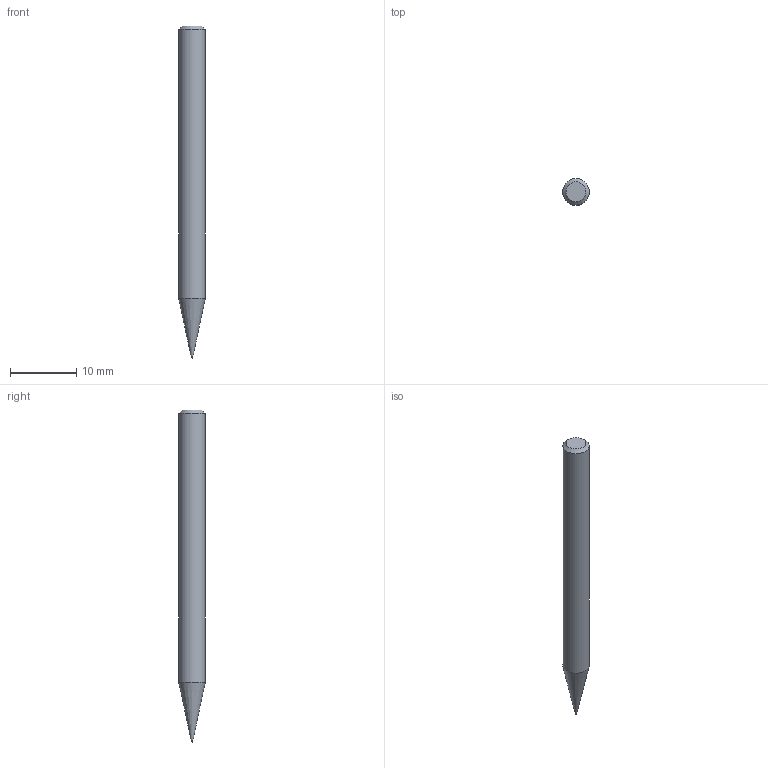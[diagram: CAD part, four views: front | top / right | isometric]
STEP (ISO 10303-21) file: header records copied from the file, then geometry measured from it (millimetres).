
FILE_DESCRIPTION((''),'2;1');
FILE_NAME('C:\Users\nsx150\AppData\Local\Temp\Mastercam 2021\98T1Q6BTT1\TEMP.step','2021-10-21T14:55:15',(''),(''),'STEP Write','Mastercam 2021 ... CNC Software, Inc.','');
FILE_SCHEMA(('AUTOMOTIVE_DESIGN'));
Length unit declared in the file: millimetre
Products named in the file (1): None
Bounding box: 4 x 4 x 50 mm (x, y, z)
Volume: 553.2 mm3; surface area: 584.3 mm2
Topology: 2 solids, 2 shells, 8 faces, 12 edges, 7 vertices
Faces by surface type: plane 3, cylinder 2, cone 2, sphere 1
Full cylindrical faces by diameter (mm): 0.3 x1, 4 x1
Entity records: 190 total; most frequent: DIRECTION 32, CARTESIAN_POINT 22, AXIS2_PLACEMENT_3D 16, ORIENTED_EDGE 12, EDGE_LOOP 12, STYLED_ITEM 11, ADVANCED_FACE 8, VERTEX_POINT 6
